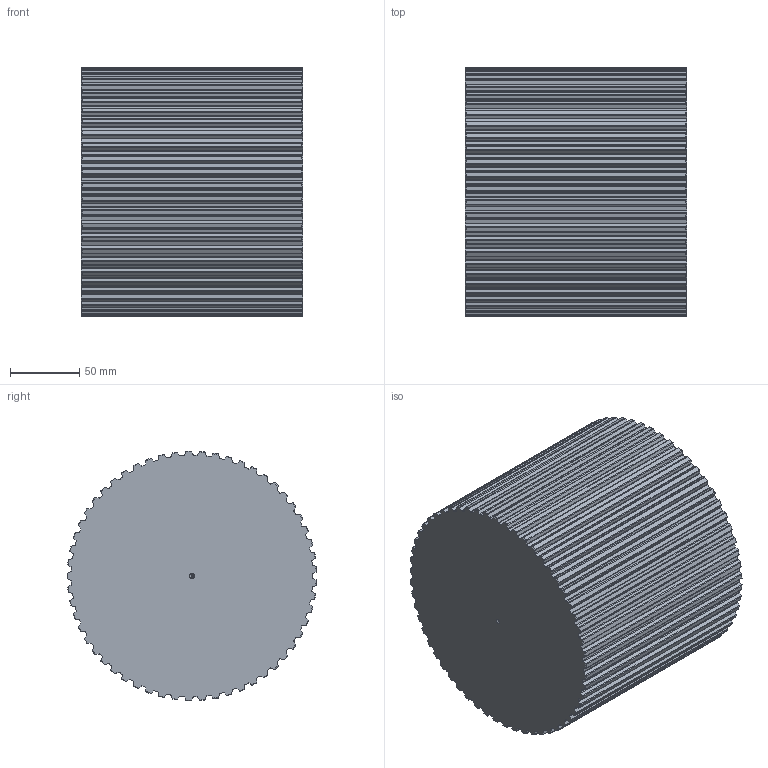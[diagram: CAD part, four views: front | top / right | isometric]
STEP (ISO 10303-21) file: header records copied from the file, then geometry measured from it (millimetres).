
FILE_DESCRIPTION(('STEP AP203'),'1');
FILE_NAME('barat_57.stp','2022-04-12T09:42:41',('TraceParts'),('TraceParts S.A.'),'Spatial InterOp 3D',' ',' ');
FILE_SCHEMA(('CONFIG_CONTROL_DESIGN'));
Length unit declared in the file: millimetre
Products named in the file (1): 1
Bounding box: 160 x 180.37 x 180.43 mm (x, y, z)
Volume: 3966192.6 mm3; surface area: 168488.8 mm2
Topology: 1 solids, 1 shells, 586 faces, 1744 edges, 1158 vertices
Faces by surface type: cylinder 346, cone 124, plane 116
Entity records: 21194 total; most frequent: CARTESIAN_POINT 5993, ORIENTED_EDGE 3480, DIRECTION 3044, EDGE_CURVE 1740, AXIS2_PLACEMENT_3D 1173, VERTEX_POINT 1158, LINE 698, VECTOR 698
